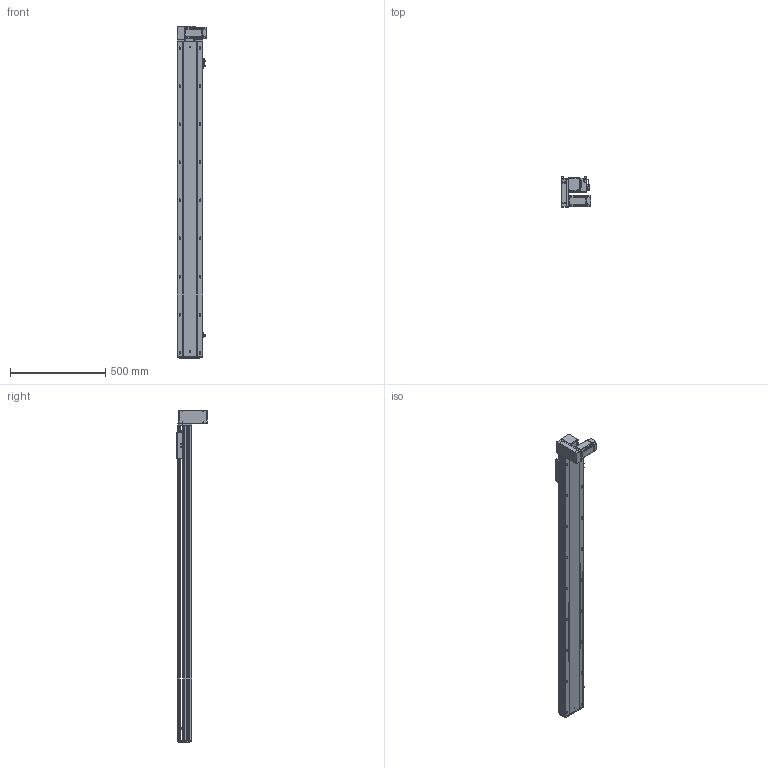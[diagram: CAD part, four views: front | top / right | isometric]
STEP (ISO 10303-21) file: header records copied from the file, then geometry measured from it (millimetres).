
FILE_DESCRIPTION (( 'STEP AP203' ), '1' );
FILE_NAME ('RY140-T-300-DL.SLDASM_1400.step', '2021-03-01T06:06:59', ( '盈信电脑' ), ( '东莞市道滘镇水果街19号' ), 'SwSTEP 2.0', 'SolidWorks 2012', '' );
FILE_SCHEMA (( 'CONFIG_CONTROL_DESIGN' ));
Products named in the file (18): RY140-T-300-DL.SLDASM_1400; RY140-T翋肮謫裔啣; 滅袉蝶18-10; RY120-T蹟翐M4; RY140-T萇儂欶; 15; RY140-T萇儂假蚾啣; RY120-T主同步轮轴承压盖; 侂狟400W侜督萇儂; RY120-T肮祭湍揤踡輸1; RY120-T肮祭湍揤踡輸2; RY140-T翋肮祭謫盓傅釱; 覜茼ん672; RY120外置感应片(140共用）; RY140-T-300-DL倰第奻裔啣_1400; RY140綴裔啣; RY140肮祭謫臏賑輸; RY140-T-300-DL倰第菁釱_1400
Assembly tree (23 placements, depth 3):
  RY140-T-300-DL.SLDASM_1400
    RY140-T-300-DL倰第菁釱_1400
    RY140肮祭謫臏賑輸
    RY140-T-300-DL倰第奻裔啣_1400
    RY140綴裔啣
    覜茼ん672  x3
    RY120外置感应片(140共用）
    RY120-T肮祭湍揤踡輸2
    RY120-T肮祭湍揤踡輸1
    RY140-T翋肮祭謫盓傅釱
    RY140-T萇儂假蚾啣
    侂狟400W侜督萇儂
      15
    RY120-T主同步轮轴承压盖
    RY120-T蹟翐M4  x4
    RY140-T萇儂欶
    滅袉蝶18-10  x2
    RY140-T翋肮謫裔啣
Bounding box: 157 x 158.5 x 1746 mm (x, y, z)
Volume: 4953315 mm3; surface area: 1915103.3 mm2
Topology: 22 solids, 22 shells, 2766 faces, 7582 edges, 4848 vertices
Faces by surface type: plane 1389, cylinder 1031, cone 246, bspline 100
Entity records: 87480 total; most frequent: CARTESIAN_POINT 21263, ORIENTED_EDGE 13596, DIRECTION 12972, EDGE_CURVE 6798, VERTEX_POINT 4447, AXIS2_PLACEMENT_3D 4333, LINE 4306, VECTOR 4306
